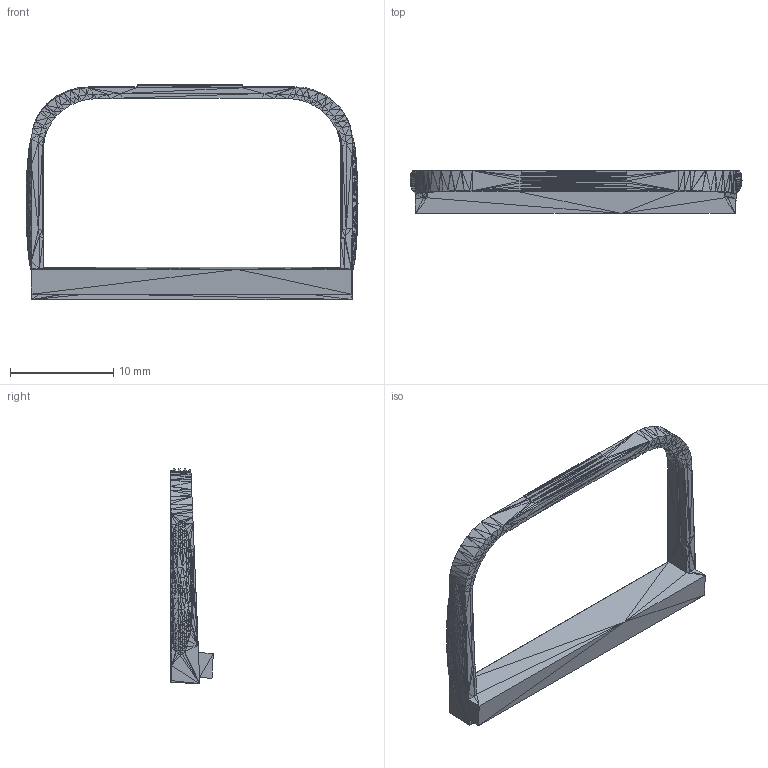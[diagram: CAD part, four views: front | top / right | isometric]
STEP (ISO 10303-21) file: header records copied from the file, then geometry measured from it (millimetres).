
FILE_DESCRIPTION(('FreeCAD Model'),'2;1');
FILE_NAME('Open CASCADE Shape Model','2025-03-06T13:10:33',('Author'),( ''),'Open CASCADE STEP processor 7.8','FreeCAD','Unknown');
FILE_SCHEMA(('AUTOMOTIVE_DESIGN { 1 0 10303 214 1 1 1 1 }'));
Length unit declared in the file: millimetre
Products named in the file (1): FOSSToritisLensHolderInsert002 (Solid)
Bounding box: 32.2 x 4.14 x 20.88 mm (x, y, z)
Volume: 517.8 mm3; surface area: 879.8 mm2
Topology: 1 solids, 1 shells, 1670 faces, 2505 edges, 835 vertices
Faces by surface type: plane 1670
Entity records: 32595 total; most frequent: DIRECTION 5847, CARTESIAN_POINT 5011, ORIENTED_EDGE 5010, EDGE_CURVE 2505, LINE 2505, VECTOR 2505, AXIS2_PLACEMENT_3D 1671, ADVANCED_FACE 1670
